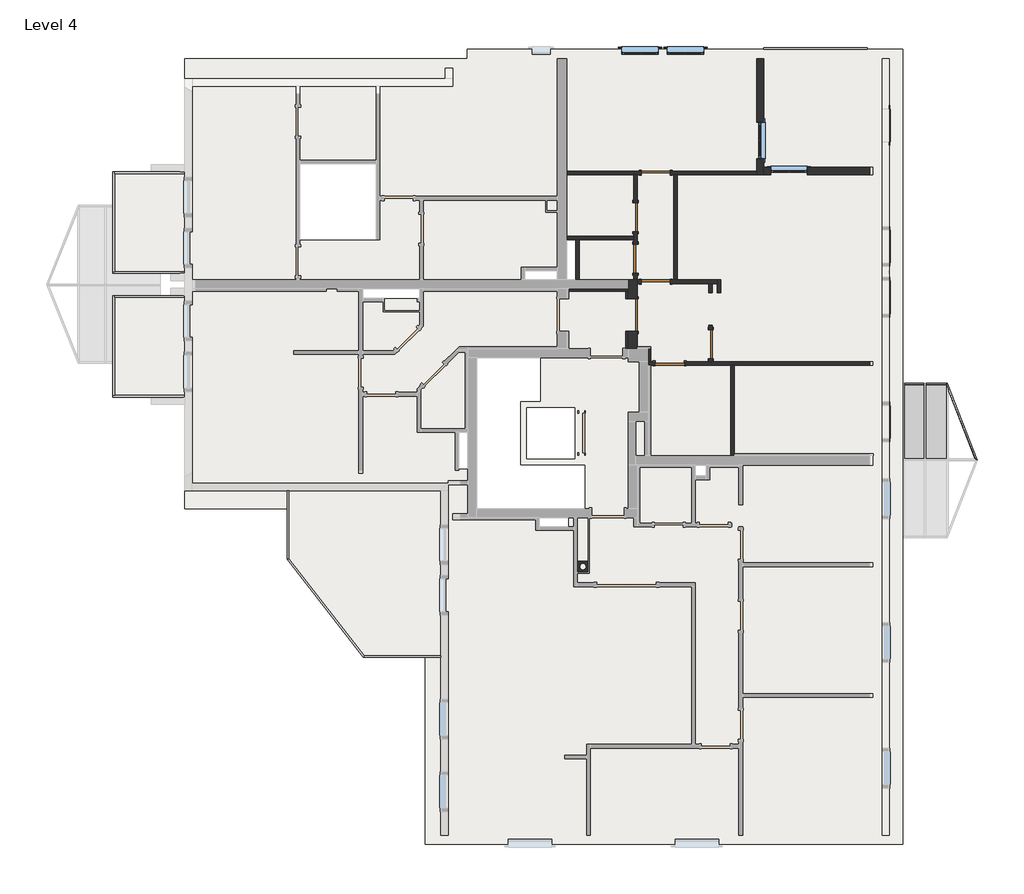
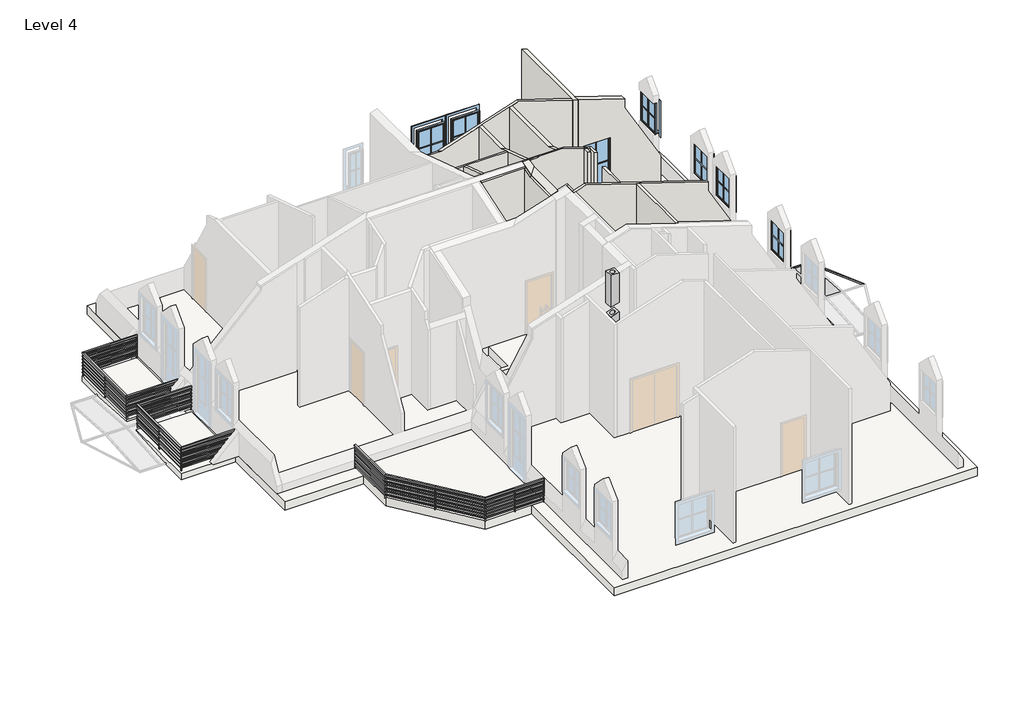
# One storey, part 4 of 4: 17 walls, 8 windows, 7 doors, 4 railings, 4 slabs, 3 members, 2 plates, 1 column.
"""IFC4 building model written with IfcOpenShell, lengths in millimetres."""

from ifc_helpers import new_model, si_unit, frame, origin, place, context, project, spatial, polyline, circle_curve, ellipse_curve, outline, extrude, faceted_brep, transform, mapped, element, save
from ifc_brep_helpers import plane_surface, revolved_surface, advanced_brep
from components import standard_door_sd_800x2000_6a16926d, standard_door_sd_800x2000_80f4ff25, standard_door_sd_900x2000_4224ae2a, rectangular_mullion_40_40_b48b72c3, rectangular_mullion_40_40_5bffcd9d, rectangular_mullion_40_40_41786b79, system_panel_system_panel_b659144f, system_panel_system_panel_996e8192, railing_900mm_pipe_289d2cf6, railing_900mm_pipe_1f24636d, railing_900mm_pipe_5438d2cb, railing_900mm_pipe_97c98137, standard_window_with_mullions_12e20a72, standard_window_with_mullions_4f38f980, window_2_5e4ade40, window_2_40adfcd9

model = new_model("IFC4")

# Units and contexts
model_context = context("Model", 3, world=origin())
ifc_project = project(units=[si_unit("LENGTHUNIT", "METRE", prefix="MILLI")], contexts=[model_context])

# Site, building, storey
site = spatial("IfcSite", under=ifc_project)
building = spatial("IfcBuilding", under=site)
storey = spatial("IfcBuildingStorey", under=building, Name="Level 4", Elevation=11800.0)

# Column
placement = place(None, origin())
element("IfcColumn", 1, ObjectType="AT Kamin : 300/300/160", at=placement, inside=storey, context=model_context, shape_type="AdvancedBrep", body=[
    advanced_brep(
    [(463.5618728, -3282.3709459, 17750.0), (163.5618728, -3282.3709459, 17750.0), (163.5618728, -3582.3709459, 17750.0), (463.5618728, -3582.3709459, 17750.0), (233.5618728, -3432.3709459, 17750.0), (393.5618728, -3432.3709459, 17750.0), (463.5618728, -3282.3709459, 16623.4506996), (163.5618728, -3282.3709459, 16525.9747908), (163.5618728, -3582.3709459, 16525.9747908), (463.5618728, -3582.3709459, 16623.4506996), (233.5618728, -3432.3709459, 16548.7191695), (393.5618728, -3432.3709459, 16600.7063209)],
    [
        (0, 1),
        (1, 2),
        (2, 3),
        (3, 0),
        (4, 5, circle_curve(frame((313.5618728, -3432.3709459, 17750.0), z_axis=(0.0, 0.0, -1.0), x_axis=(1.0, 0.0, 0.0)), 80.0)),
        (5, 4, circle_curve(frame((313.5618728, -3432.3709459, 17750.0), z_axis=(0.0, 0.0, -1.0), x_axis=(1.0, 0.0, 0.0)), 80.0)),
        (0, 6),
        (6, 7),
        (7, 1),
        (7, 8),
        (8, 2),
        (8, 9),
        (9, 3),
        (9, 6),
        (4, 10),
        (10, 11, ellipse_curve(frame((313.5618728, -3432.3709459, 16574.7127452), z_axis=(0.30901699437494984, 0.0, -0.9510565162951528), x_axis=(-0.9510565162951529, 0.0, -0.30901699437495)), 84.1169779, 80.0)),
        (11, 5),
        (11, 10, ellipse_curve(frame((313.5618728, -3432.3709459, 16574.7127452), z_axis=(0.30901699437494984, 0.0, -0.9510565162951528), x_axis=(-0.9510565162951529, 0.0, -0.30901699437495)), 84.1169779, 80.0)),
    ],
    [
        plane_surface(frame((163.5618728, -3282.3709459, 17750.0), z_axis=(0.0, 0.0, 1.0), x_axis=(-1.0, 0.0, 0.0))),
        plane_surface(frame((463.5618728, -3282.3709459, 17750.0), z_axis=(0.0, 1.0, 0.0), x_axis=(0.0, 0.0, -1.0))),
        plane_surface(frame((163.5618728, -3282.3709459, 17750.0), z_axis=(-1.0, 0.0, 0.0), x_axis=(0.0, 0.0, -1.0))),
        plane_surface(frame((163.5618728, -3582.3709459, 17750.0), z_axis=(0.0, -1.0, 0.0), x_axis=(0.0, 0.0, -1.0))),
        plane_surface(frame((463.5618728, -3582.3709459, 17750.0), z_axis=(1.0, 0.0, 0.0), x_axis=(0.0, 0.0, -1.0))),
        revolved_surface(polyline([(393.5618728, -3432.3709459, 16548.7191695), (393.5618728, -3432.3709459, 17750.0)]), (313.5618728, -3432.3709459, 11800.0), (0.0, 0.0, -1.0)),
        plane_surface(frame((-1841.5846805, 437.0391776, 15874.4631818), z_axis=(0.30901699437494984, 0.0, -0.9510565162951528), x_axis=(0.0, -1.0, 0.0))),
    ],
    [
        (0, [[1, 2, 3, 4], [5, 6]]),
        (1, [[-1, 7, 8, 9]]),
        (2, [[-2, -9, 10, 11]]),
        (3, [[-3, -11, 12, 13]]),
        (4, [[-4, -13, 14, -7]]),
        (5, [[-5, 15, 16, 17]]),
        (5, [[-6, -17, 18, -15]]),
        (6, [[-8, -14, -12, -10], [-16, -18]]),
    ],
),
    advanced_brep(
    [(463.5618728, -3282.3709459, 11800.0), (463.5618728, -3582.3709459, 11800.0), (163.5618728, -3582.3709459, 11800.0), (163.5618728, -3282.3709459, 11800.0), (233.5618728, -3432.3709459, 11800.0), (393.5618728, -3432.3709459, 11800.0), (463.5618728, -3282.3709459, 16244.9242989), (163.5618728, -3282.3709459, 16147.44839), (163.5618728, -3582.3709459, 16147.44839), (463.5618728, -3582.3709459, 16244.9242989), (233.5618728, -3432.3709459, 16170.1927688), (393.5618728, -3432.3709459, 16222.1799202)],
    [
        (0, 1),
        (1, 2),
        (2, 3),
        (3, 0),
        (4, 5, circle_curve(frame((313.5618728, -3432.3709459, 11800.0), z_axis=(0.0, 0.0, 1.0), x_axis=(1.0, 0.0, 0.0)), 80.0)),
        (5, 4, circle_curve(frame((313.5618728, -3432.3709459, 11800.0), z_axis=(0.0, 0.0, 1.0), x_axis=(1.0, 0.0, 0.0)), 80.0)),
        (6, 7),
        (7, 8),
        (8, 9),
        (9, 6),
        (10, 11, ellipse_curve(frame((313.5618728, -3432.3709459, 16196.1863445), z_axis=(0.30901699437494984, 0.0, -0.9510565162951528), x_axis=(-0.9510565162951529, 0.0, -0.30901699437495)), 84.1169779, 80.0)),
        (11, 10, ellipse_curve(frame((313.5618728, -3432.3709459, 16196.1863445), z_axis=(0.30901699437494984, 0.0, -0.9510565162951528), x_axis=(-0.9510565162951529, 0.0, -0.30901699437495)), 84.1169779, 80.0)),
        (3, 7),
        (6, 0),
        (2, 8),
        (1, 9),
        (5, 11),
        (10, 4),
    ],
    [
        plane_surface(frame((163.5618728, -3282.3709459, 11800.0), z_axis=(0.0, 0.0, -1.0), x_axis=(1.0, 0.0, 0.0))),
        plane_surface(frame((-1841.5846805, 437.0391776, 15495.936781), z_axis=(-0.30901699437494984, 0.0, 0.9510565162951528), x_axis=(0.0, -1.0, 0.0))),
        plane_surface(frame((463.5618728, -3282.3709459, 17750.0), z_axis=(0.0, 1.0, 0.0), x_axis=(0.0, 0.0, -1.0))),
        plane_surface(frame((163.5618728, -3282.3709459, 17750.0), z_axis=(-1.0, 0.0, 0.0), x_axis=(0.0, 0.0, -1.0))),
        plane_surface(frame((163.5618728, -3582.3709459, 17750.0), z_axis=(0.0, -1.0, 0.0), x_axis=(0.0, 0.0, -1.0))),
        plane_surface(frame((463.5618728, -3582.3709459, 17750.0), z_axis=(1.0, 0.0, 0.0), x_axis=(0.0, 0.0, -1.0))),
        revolved_surface(polyline([(393.5618728, -3432.3709459, 11800.0), (393.5618728, -3432.3709459, 16222.1799202)]), (313.5618728, -3432.3709459, 11800.0), (0.0, 0.0, -1.0)),
    ],
    [
        (0, [[1, 2, 3, 4], [5, 6]]),
        (1, [[7, 8, 9, 10], [11, 12]]),
        (2, [[-4, 13, -7, 14]]),
        (3, [[-3, 15, -8, -13]]),
        (4, [[-2, 16, -9, -15]]),
        (5, [[-1, -14, -10, -16]]),
        (6, [[-6, 17, -11, 18]]),
        (6, [[-5, -18, -12, -17]]),
    ],
),
])

# Doors
standard_door_sd_800x2000_shape = standard_door_sd_800x2000_6a16926d(model_context)
element("IfcDoor", 2, ObjectType="Standard Door : SD 800x2000", at=placement, inside=storey, context=model_context, shape_type="MappedRepresentation", body=[
    mapped(standard_door_sd_800x2000_shape, transform((1762.8037835, 6195.7160827, 11800.0), x_axis=(0.0, 1.0, 0.0), y_axis=(-1.0, 0.0, 0.0), z_axis=(0.0, 0.0, 1.0))),
])
element("IfcDoor", 3, ObjectType="Standard Door : SD 800x2000", at=placement, inside=storey, context=model_context, shape_type="MappedRepresentation", body=[
    mapped(standard_door_sd_800x2000_shape, transform((3832.8037835, 2700.9736217, 11800.0), x_axis=(0.0, 1.0, 0.0), y_axis=(-1.0, 0.0, 0.0), z_axis=(0.0, 0.0, 1.0))),
])
element("IfcDoor", 4, ObjectType="Standard Door : SD 800x2000", at=placement, inside=storey, context=model_context, shape_type="MappedRepresentation", body=[
    mapped(standard_door_sd_800x2000_shape, transform((2702.9629379, 2166.2076978, 11800.0), x_axis=(1.0, 0.0, 0.0), y_axis=(0.0, 1.0, 0.0), z_axis=(0.0, 0.0, 1.0))),
])
standard_door_sd_800x2000_2_shape = standard_door_sd_800x2000_80f4ff25(model_context)
element("IfcDoor", 5, ObjectType="Standard Door : SD 800x2000", at=placement, inside=storey, context=model_context, shape_type="MappedRepresentation", body=[
    mapped(standard_door_sd_800x2000_2_shape, transform((2320.391243, 7417.6290541, 11800.0), x_axis=(1.0, 0.0, 0.0), y_axis=(0.0, 1.0, 0.0), z_axis=(0.0, 0.0, 1.0))),
])
element("IfcDoor", 6, ObjectType="Standard Door : SD 800x2000", at=placement, inside=storey, context=model_context, shape_type="MappedRepresentation", body=[
    mapped(standard_door_sd_800x2000_2_shape, transform((2320.391243, 4417.6290541, 11800.0), x_axis=(1.0, 0.0, 0.0), y_axis=(0.0, 1.0, 0.0), z_axis=(0.0, 0.0, 1.0))),
])
element("IfcDoor", 7, ObjectType="Standard Door : SD 800x2000", at=placement, inside=storey, context=model_context, shape_type="MappedRepresentation", body=[
    mapped(standard_door_sd_800x2000_2_shape, transform((1762.8037835, 5053.6933044, 11800.0), x_axis=(0.0, 1.0, 0.0), y_axis=(-1.0, 0.0, 0.0), z_axis=(0.0, 0.0, 1.0))),
])
standard_door_sd_900x2000_shape = standard_door_sd_900x2000_4224ae2a(model_context)
element("IfcDoor", 8, ObjectType="Standard Door : SD 900x2000", at=placement, inside=storey, context=model_context, shape_type="MappedRepresentation", body=[
    mapped(standard_door_sd_900x2000_shape, transform((1687.8037835, 3497.5977832, 11800.0), x_axis=(0.0, -0.9999999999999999, 0.0), y_axis=(0.9999999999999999, 0.0, 0.0), z_axis=(0.0, 0.0, 1.0))),
])

# Members
rectangular_mullion_40_40_shape = rectangular_mullion_40_40_b48b72c3(model_context)
element("IfcMember", 9, ObjectType="Rectangular Mullion : 40/40", at=placement, inside=storey, context=model_context, shape_type="MappedRepresentation", body=[
    mapped(rectangular_mullion_40_40_shape, transform((9172.8037835, 1617.6290541, 11530.0), x_axis=(0.0, 0.9975640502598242, -0.06975647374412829), y_axis=(0.0, -0.06975647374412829, -0.9975640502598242), z_axis=(-1.0, 0.0, 0.0))),
])
rectangular_mullion_40_40_2_shape = rectangular_mullion_40_40_5bffcd9d(model_context)
element("IfcMember", 10, ObjectType="Rectangular Mullion : 40/40", at=placement, inside=storey, context=model_context, shape_type="MappedRepresentation", body=[
    mapped(rectangular_mullion_40_40_2_shape, transform((10358.0299794, 1617.6290541, 11530.0), x_axis=(0.9322837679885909, 0.36084661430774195, -0.025232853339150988), y_axis=(0.0, -0.06975647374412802, -0.9975640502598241), z_axis=(-0.3617277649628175, 0.9300127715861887, -0.06503282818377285))),
])
rectangular_mullion_40_40_3_shape = rectangular_mullion_40_40_41786b79(model_context)
element("IfcMember", 11, ObjectType="Rectangular Mullion : 40/40", at=placement, inside=storey, context=model_context, shape_type="MappedRepresentation", body=[
    mapped(rectangular_mullion_40_40_3_shape, transform((9765.4168815, 1617.6290541, 11530.0), x_axis=(0.0, 0.9975640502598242, -0.06975647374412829), y_axis=(0.0, -0.06975647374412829, -0.9975640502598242), z_axis=(-1.0, 0.0, 0.0))),
])

# Plates
system_panel_system_panel_shape = system_panel_system_panel_b659144f(model_context)
element("IfcPlate", 12, ObjectType="System Panel : System Panel", at=placement, inside=storey, context=model_context, shape_type="MappedRepresentation", body=[
    mapped(system_panel_system_panel_shape, transform((10051.7234305, 1577.7264921, 11532.7902589), x_axis=(-1.0, 0.0, 0.0), y_axis=(0.0, -0.06975647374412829, -0.9975640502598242), z_axis=(0.0, -0.9975640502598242, 0.06975647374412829))),
])
system_panel_system_panel_2_shape = system_panel_system_panel_996e8192(model_context)
element("IfcPlate", 13, ObjectType="System Panel : System Panel", at=placement, inside=storey, context=model_context, shape_type="MappedRepresentation", body=[
    mapped(system_panel_system_panel_2_shape, transform((9449.1103325, 1577.7264921, 11532.7902589), x_axis=(-1.0, 0.0, 0.0), y_axis=(0.0, -0.06975647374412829, -0.9975640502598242), z_axis=(0.0, -0.9975640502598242, 0.06975647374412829))),
])

# Railings
railing_900mm_pipe_shape = railing_900mm_pipe_289d2cf6(model_context)
element("IfcRailing", 14, ObjectType="900mm Pipe", at=placement, inside=storey, context=model_context, shape_type="MappedRepresentation", body=[
    mapped(railing_900mm_pipe_shape, transform((0.0, 0.0, 0.0), x_axis=(1.0, 0.0, 0.0), y_axis=(0.0, 1.0, 0.0), z_axis=(0.0, 0.0, 1.0))),
])
railing_900mm_pipe_2_shape = railing_900mm_pipe_1f24636d(model_context)
element("IfcRailing", 15, ObjectType="900mm Pipe", at=placement, inside=storey, context=model_context, shape_type="MappedRepresentation", body=[
    mapped(railing_900mm_pipe_2_shape, transform((0.0, 0.0, 0.0), x_axis=(1.0, 0.0, 0.0), y_axis=(0.0, 1.0, 0.0), z_axis=(0.0, 0.0, 1.0))),
])
railing_900mm_pipe_3_shape = railing_900mm_pipe_5438d2cb(model_context)
element("IfcRailing", 16, ObjectType="900mm Pipe", at=placement, inside=storey, context=model_context, shape_type="MappedRepresentation", body=[
    mapped(railing_900mm_pipe_3_shape, transform((0.0, 0.0, 0.0), x_axis=(1.0, 0.0, 0.0), y_axis=(0.0, 1.0, 0.0), z_axis=(0.0, 0.0, 1.0))),
])
railing_900mm_pipe_4_shape = railing_900mm_pipe_97c98137(model_context)
element("IfcRailing", 17, ObjectType="900mm Pipe", at=placement, inside=storey, context=model_context, shape_type="MappedRepresentation", body=[
    mapped(railing_900mm_pipe_4_shape, transform((0.0, 0.0, 0.0), x_axis=(1.0, 0.0, 0.0), y_axis=(0.0, 1.0, 0.0), z_axis=(0.0, 0.0, 1.0))),
])

# Slabs
element("IfcSlab", 18, ObjectType="Concrete", at=placement, inside=storey, context=model_context, shape_type="SweptSolid", body=[
    extrude(outline(polyline([(-10656.4352243, 4647.6290541), (-12637.1962165, 4647.6290541), (-12637.1962165, 7447.6290541), (-10656.4352243, 7447.6290541), (-10656.4352243, 4647.6290541)])), frame((0.0, 0.0, 11480.0), z_axis=(0.0, 0.0, 1.0), x_axis=(1.0, 0.0, 0.0)), (0.0, 0.0, 1.0), 220.0),
])
element("IfcSlab", 19, ObjectType="Concrete", at=placement, inside=storey, context=model_context, shape_type="SweptSolid", body=[
    extrude(outline(polyline([(-10656.4352243, 1237.6290541), (-12637.1962165, 1237.6290541), (-12637.1962165, 4037.6290541), (-10656.4352243, 4037.6290541), (-10656.4352243, 1237.6290541)])), frame((0.0, 0.0, 11480.0), z_axis=(0.0, 0.0, 1.0), x_axis=(1.0, 0.0, 0.0)), (0.0, 0.0, 1.0), 220.0),
])
element("IfcSlab", 20, ObjectType="STB200 + 120", at=placement, inside=storey, context=model_context, shape_type="Brep", body=[
    faceted_brep([(-7787.1962165, -1832.3709459, 11480.0), (-10656.4352243, -1832.3709459, 11480.0), (-10656.4352243, 10567.6290541, 11480.0), (-2867.1962165, 10567.6290541, 11480.0), (-2867.1962165, 10817.6290541, 11480.0), (9132.8037835, 10817.6290541, 11480.0), (9132.8037835, -11082.3709459, 11480.0), (-4037.1962165, -11082.3709459, 11480.0), (-4037.1962165, -5882.3709459, 11480.0), (-3598.9496412, -5882.3709459, 11480.0), (-3598.9496412, -1338.1208451, 11480.0), (-7787.1962165, -1338.1208451, 11480.0), (-857.1962165, 1117.6290541, 11480.0), (-857.1962165, 2317.6290541, 11480.0), (-2607.1962165, 2317.6290541, 11480.0), (-2607.1962165, -1832.3709459, 11480.0), (362.8037835, -1832.3709459, 11480.0), (362.8037835, -632.3709459, 11480.0), (-1407.1962165, -632.3709459, 11480.0), (-1407.1962165, 1117.6290541, 11480.0), (-7487.1962165, 5567.6290541, 11480.0), (-5387.1962165, 5567.6290541, 11480.0), (-5387.1962165, 7667.6290541, 11480.0), (-7487.1962165, 7667.6290541, 11480.0), (-387.1962165, 4717.6290541, 11480.0), (-1287.1962165, 4717.6290541, 11480.0), (-1287.1962165, 4467.6290541, 11480.0), (-387.1962165, 4467.6290541, 11480.0), (112.8037835, 5567.6290541, 11480.0), (-137.1962165, 5567.6290541, 11480.0), (-137.1962165, 4467.6290541, 11480.0), (112.8037835, 4467.6290541, 11480.0), (-5757.1962165, 3967.6290541, 11480.0), (-4187.1962165, 3967.6290541, 11480.0), (-4187.1962165, 4217.6290541, 11480.0), (-5757.1962165, 4217.6290541, 11480.0), (-2857.1962165, 267.6290541, 11480.0), (-3107.1962165, 267.6290541, 11480.0), (-3107.1962165, -732.3709459, 11480.0), (-2857.1962165, -732.3709459, 11480.0), (-86.4381272, -2082.3709459, 11480.0), (-886.4381272, -2082.3709459, 11480.0), (-886.4381272, -2332.3709459, 11480.0), (-86.4381272, -2332.3709459, 11480.0), (3712.8037835, -632.3709459, 11480.0), (3412.8037835, -632.3709459, 11480.0), (3412.8037835, -932.3709459, 11480.0), (3712.8037835, -932.3709459, 11480.0), (87.8037835, 947.6290541, 11480.0), (-1237.1962165, 947.6290541, 11480.0), (-1237.1962165, -462.3709459, 11480.0), (87.8037835, -462.3709459, 11480.0), (-10656.4352243, -1832.3709459, 11800.0), (-7787.1962165, -1832.3709459, 11800.0), (-7787.1962165, -1338.1208451, 11800.0), (-3598.9496412, -1338.1208451, 11800.0), (-3598.9496412, -3772.3709459, 11800.0), (-3598.9496412, -4672.3709459, 11800.0), (-3598.9496412, -5882.3709459, 11800.0), (-4037.1962165, -5882.3709459, 11800.0), (-4037.1962165, -11082.3709459, 11800.0), (9132.8037835, -11082.3709459, 11800.0), (9132.8037835, 10817.6290541, 11800.0), (-2867.1962165, 10817.6290541, 11800.0), (-2867.1962165, 10567.6290541, 11800.0), (-10656.4352243, 10567.6290541, 11800.0), (-857.1962165, 2317.6290541, 11800.0), (-857.1962165, 1117.6290541, 11800.0), (-1407.1962165, 1117.6290541, 11800.0), (-1407.1962165, -632.3709459, 11800.0), (362.8037835, -632.3709459, 11800.0), (362.8037835, -1832.3709459, 11800.0), (-2607.1962165, -1832.3709459, 11800.0), (-2607.1962165, 2317.6290541, 11800.0), (-5387.1962165, 5567.6290541, 11800.0), (-7487.1962165, 5567.6290541, 11800.0), (-7487.1962165, 7667.6290541, 11800.0), (-5387.1962165, 7667.6290541, 11800.0), (-1287.1962165, 4717.6290541, 11800.0), (-387.1962165, 4717.6290541, 11800.0), (-387.1962165, 4467.6290541, 11800.0), (-1287.1962165, 4467.6290541, 11800.0), (-137.1962165, 5567.6290541, 11800.0), (112.8037835, 5567.6290541, 11800.0), (112.8037835, 4467.6290541, 11800.0), (-137.1962165, 4467.6290541, 11800.0), (-4187.1962165, 3967.6290541, 11800.0), (-5757.1962165, 3967.6290541, 11800.0), (-5757.1962165, 4217.6290541, 11800.0), (-4187.1962165, 4217.6290541, 11800.0), (-3107.1962165, 267.6290541, 11800.0), (-2857.1962165, 267.6290541, 11800.0), (-2857.1962165, -732.3709459, 11800.0), (-3107.1962165, -732.3709459, 11800.0), (-886.4381272, -2082.3709459, 11800.0), (-86.4381272, -2082.3709459, 11800.0), (-86.4381272, -2332.3709459, 11800.0), (-886.4381272, -2332.3709459, 11800.0), (3412.8037835, -632.3709459, 11800.0), (3712.8037835, -632.3709459, 11800.0), (3712.8037835, -932.3709459, 11800.0), (3412.8037835, -932.3709459, 11800.0), (-1237.1962165, 947.6290541, 11800.0), (87.8037835, 947.6290541, 11800.0), (87.8037835, -462.3709459, 11800.0), (-1237.1962165, -462.3709459, 11800.0)], [[[0, 1, 2, 3, 4, 5, 6, 7, 8, 9, 10, 11], [12, 13, 14, 15, 16, 17, 18, 19], [20, 21, 22, 23], [24, 25, 26, 27], [28, 29, 30, 31], [32, 33, 34, 35], [36, 37, 38, 39], [40, 41, 42, 43], [44, 45, 46, 47], [48, 49, 50, 51]], [[52, 53, 54, 55, 56, 57, 58, 59, 60, 61, 62, 63, 64, 65], [66, 67, 68, 69, 70, 71, 72, 73], [74, 75, 76, 77], [78, 79, 80, 81], [82, 83, 84, 85], [86, 87, 88, 89], [90, 91, 92, 93], [94, 95, 96, 97], [98, 99, 100, 101], [102, 103, 104, 105]], [[1, 0, 53, 52]], [[2, 1, 52, 65]], [[5, 4, 63, 62]], [[6, 5, 62, 61]], [[7, 6, 61, 60]], [[8, 7, 60, 59]], [[9, 8, 59, 58]], [[10, 9, 58, 57, 56, 55]], [[11, 10, 55, 54]], [[0, 11, 54, 53]], [[3, 2, 65, 64]], [[4, 3, 64, 63]], [[13, 12, 67, 66]], [[14, 13, 66, 73]], [[15, 14, 73, 72]], [[16, 15, 72, 71]], [[17, 16, 71, 70]], [[21, 20, 75, 74]], [[22, 21, 74, 77]], [[23, 22, 77, 76]], [[20, 23, 76, 75]], [[25, 24, 79, 78]], [[26, 25, 78, 81]], [[27, 26, 81, 80]], [[24, 27, 80, 79]], [[29, 28, 83, 82]], [[30, 29, 82, 85]], [[31, 30, 85, 84]], [[28, 31, 84, 83]], [[33, 32, 87, 86]], [[34, 33, 86, 89]], [[35, 34, 89, 88]], [[32, 35, 88, 87]], [[37, 36, 91, 90]], [[38, 37, 90, 93]], [[39, 38, 93, 92]], [[36, 39, 92, 91]], [[41, 40, 95, 94]], [[42, 41, 94, 97]], [[43, 42, 97, 96]], [[40, 43, 96, 95]], [[45, 44, 99, 98]], [[46, 45, 98, 101]], [[47, 46, 101, 100]], [[44, 47, 100, 99]], [[18, 17, 70, 69]], [[19, 18, 69, 68]], [[12, 19, 68, 67]], [[49, 48, 103, 102]], [[50, 49, 102, 105]], [[51, 50, 105, 104]], [[48, 51, 104, 103]]]),
])
element("IfcSlab", 21, ObjectType="STB200 + 120 Roof", at=placement, inside=storey, context=model_context, shape_type="Brep", body=[
    faceted_brep([(-7787.1962165, -1338.1208451, 11480.0), (-3598.9496412, -1338.1208451, 11480.0), (-3598.9496412, -5882.3709459, 11480.0), (-4037.1962165, -5882.3709459, 11480.0), (-5712.7420262, -5882.3709459, 11480.0), (-7787.1962165, -3215.2155584, 11480.0), (-7787.1962165, -1832.3709459, 11480.0), (-7787.1962165, -1338.1208451, 11800.0), (-7787.1962165, -1832.3709459, 11800.0), (-7787.1962165, -3215.2155584, 11800.0), (-5712.7420262, -5882.3709459, 11800.0), (-4037.1962165, -5882.3709459, 11800.0), (-3598.9496412, -5882.3709459, 11800.0), (-3598.9496412, -1338.1208451, 11800.0)], [[[0, 1, 2, 3, 4, 5, 6]], [[7, 8, 9, 10, 11, 12, 13]], [[1, 0, 7, 13]], [[2, 1, 13, 12]], [[4, 3, 2, 12, 11, 10]], [[5, 4, 10, 9]], [[0, 6, 5, 9, 8, 7]]]),
])

# Walls
element("IfcWall", 22, ObjectType="Exterior - 150+50mm", at=placement, inside=storey, context=model_context, shape_type="Brep", body=[
    faceted_brep([(5102.8037835, 7367.6290541, 11800.0), (5102.8037835, 7467.6290541, 11800.0), (5102.8037835, 7808.747067, 11800.0), (5302.8037835, 7808.747067, 11800.0), (5302.8037835, 7567.6290541, 11800.0), (5302.8037835, 7367.6290541, 11800.0), (5102.8037835, 8808.747067, 11800.0), (5102.8037835, 10567.6290541, 11800.0), (5302.8037835, 10567.6290541, 11800.0), (5302.8037835, 8808.747067, 11800.0), (5102.8037835, 7808.747067, 14200.0), (5102.8037835, 7367.6290541, 16107.6879523), (5102.8037835, 7467.6290541, 16107.6879523), (5102.8037835, 10567.6290541, 16107.6879523), (5102.8037835, 8808.747067, 14200.0), (5302.8037835, 7808.747067, 14200.0), (5302.8037835, 8808.747067, 14200.0), (5302.8037835, 10567.6290541, 14600.0), (5302.8037835, 10567.6290541, 16042.7040131), (5302.8037835, 7567.6290541, 16042.7040131), (5302.8037835, 7367.6290541, 16042.7040131)], [[[0, 1, 2, 3, 4, 5]], [[6, 7, 8, 9]], [[10, 2, 1, 0, 11, 12, 13, 7, 6, 14]], [[5, 4, 3, 15, 16, 9, 8, 17, 18, 19, 20]], [[11, 0, 5, 20]], [[7, 13, 18, 17, 8]], [[13, 12, 11, 20, 19, 18]], [[15, 3, 2, 10]], [[16, 15, 10, 14]], [[9, 16, 14, 6]]]),
])
element("IfcWall", 23, ObjectType="Exterior - 150+50mm", at=placement, inside=storey, context=model_context, shape_type="SweptSolid", body=[
    extrude(outline(polyline([(11800.0, 5302.8037835), (11800.0, 5491.3587324), (14200.0, 5491.3587324), (14200.0, 6491.3587324), (11800.0, 6491.3587324), (11800.0, 8302.8037835), (12878.7941791, 8302.8037835), (15160.2921908, 6985.5802922), (15495.936781, 6985.5802922), (16042.7040131, 5302.8037835), (11800.0, 5302.8037835)])), frame((0.0, 7367.6290541, 0.0), z_axis=(0.0, 1.0, 0.0), x_axis=(0.0, 0.0, 1.0)), (0.0, 0.0, 1.0), 200.0),
])
element("IfcWall", 24, ObjectType="Interior - 100mm", at=placement, inside=storey, context=model_context, shape_type="Brep", body=[
    faceted_brep([(5102.8037835, 7367.6290541, 11800.0), (2912.8037835, 7367.6290541, 11800.0), (2812.8037835, 7367.6290541, 11800.0), (2720.391243, 7367.6290541, 11800.0), (2720.391243, 7467.6290541, 11800.0), (5102.8037835, 7467.6290541, 11800.0), (1920.391243, 7367.6290541, 11800.0), (1812.8037835, 7367.6290541, 11800.0), (1712.8037835, 7367.6290541, 11800.0), (-137.1962165, 7367.6290541, 11800.0), (-137.1962165, 7467.6290541, 11800.0), (1920.391243, 7467.6290541, 11800.0), (2720.391243, 7367.6290541, 13800.0), (5102.8037835, 7367.6290541, 16107.6879523), (3156.9978058, 7367.6290541, 16739.9186395), (2912.8037835, 7367.6290541, 16660.5751919), (2812.8037835, 7367.6290541, 16628.0832223), (1812.8037835, 7367.6290541, 16303.1635261), (1712.8037835, 7367.6290541, 16270.6715565), (332.8037835, 7367.6290541, 15822.2823757), (-137.1962165, 7367.6290541, 15822.2823757), (1920.391243, 7367.6290541, 13800.0), (2720.391243, 7467.6290541, 13800.0), (1920.391243, 7467.6290541, 13800.0), (-137.1962165, 7467.6290541, 15789.790406), (232.8037835, 7467.6290541, 15789.790406), (3156.9978058, 7467.6290541, 16739.9186395), (5102.8037835, 7467.6290541, 16107.6879523)], [[[0, 1, 2, 3, 4, 5]], [[6, 7, 8, 9, 10, 11]], [[12, 3, 2, 1, 0, 13, 14, 15, 16, 17, 18, 19, 20, 9, 8, 7, 6, 21]], [[5, 4, 22, 23, 11, 10, 24, 25, 26, 27]], [[9, 20, 24, 10]], [[13, 0, 5, 27]], [[20, 19, 25, 24]], [[19, 18, 17, 16, 15, 14, 26, 25]], [[14, 13, 27, 26]], [[22, 4, 3, 12]], [[23, 22, 12, 21]], [[11, 23, 21, 6]]]),
])
element("IfcWall", 25, ObjectType="Interior - 100mm", at=placement, inside=storey, context=model_context, shape_type="Brep", body=[
    faceted_brep([(1812.8037835, 7367.6290541, 11800.0), (1812.8037835, 6595.7160827, 11800.0), (1712.8037835, 6595.7160827, 11800.0), (1712.8037835, 7367.6290541, 11800.0), (1812.8037835, 5795.7160827, 11800.0), (1812.8037835, 5453.6933044, 11800.0), (1712.8037835, 5453.6933044, 11800.0), (1712.8037835, 5567.6290541, 11800.0), (1712.8037835, 5667.6290541, 11800.0), (1712.8037835, 5795.7160827, 11800.0), (1812.8037835, 4653.6933044, 11800.0), (1812.8037835, 4467.6290541, 11800.0), (1712.8037835, 4467.6290541, 11800.0), (1712.8037835, 4653.6933044, 11800.0), (1812.8037835, 5453.6933044, 13800.0), (1812.8037835, 5795.7160827, 13800.0), (1812.8037835, 6595.7160827, 13800.0), (1812.8037835, 7367.6290541, 16303.1635261), (1812.8037835, 5887.6290541, 16303.1635261), (1812.8037835, 4467.6290541, 16764.5494947), (1812.8037835, 4653.6933044, 13800.0), (1712.8037835, 5453.6933044, 13800.0), (1712.8037835, 4653.6933044, 13800.0), (1712.8037835, 4467.6290541, 16764.5494947), (1712.8037835, 5567.6290541, 16407.1378289), (1712.8037835, 5667.6290541, 16374.6458593), (1712.8037835, 5987.6290541, 16270.6715565), (1712.8037835, 7367.6290541, 16270.6715565), (1712.8037835, 6595.7160827, 13800.0), (1712.8037835, 5795.7160827, 13800.0)], [[[0, 1, 2, 3]], [[4, 5, 6, 7, 8, 9]], [[10, 11, 12, 13]], [[14, 5, 4, 15, 16, 1, 0, 17, 18, 19, 11, 10, 20]], [[9, 8, 7, 6, 21, 22, 13, 12, 23, 24, 25, 26, 27, 3, 2, 28, 29]], [[17, 0, 3, 27]], [[11, 19, 23, 12]], [[19, 18, 26, 25, 24, 23]], [[18, 17, 27, 26]], [[28, 2, 1, 16]], [[29, 28, 16, 15]], [[9, 29, 15, 4]], [[21, 6, 5, 14]], [[22, 21, 14, 20]], [[13, 22, 20, 10]]]),
])
element("IfcWall", 26, ObjectType="Interior - 100mm", at=placement, inside=storey, context=model_context, shape_type="Brep", body=[
    faceted_brep([(1712.8037835, 5667.6290541, 11800.0), (-137.1962165, 5667.6290541, 11800.0), (-137.1962165, 5667.6290541, 16374.6458593), (1712.8037835, 5667.6290541, 16374.6458593), (1712.8037835, 5567.6290541, 11800.0), (1712.8037835, 5567.6290541, 16407.1378289), (212.8037835, 5567.6290541, 16407.1378289), (112.8037835, 5567.6290541, 16407.1378289), (-137.1962165, 5567.6290541, 16407.1378289), (-137.1962165, 5567.6290541, 11800.0), (112.8037835, 5567.6290541, 11800.0), (212.8037835, 5567.6290541, 11800.0)], [[[0, 1, 2, 3]], [[4, 5, 6, 7, 8, 9, 10, 11]], [[1, 0, 4, 11, 10, 9]], [[0, 3, 5, 4]], [[2, 1, 9, 8]], [[3, 2, 8, 7, 6, 5]]]),
])
element("IfcWall", 27, ObjectType="Interior - 100mm", at=placement, inside=storey, context=model_context, shape_type="SweptSolid", body=[
    extrude(outline(polyline([(5567.6290541, 11800.0), (4467.6290541, 11800.0), (4467.6290541, 16764.5494947), (5567.6290541, 16407.1378289), (5567.6290541, 11800.0)])), frame((112.8037835, 0.0, 0.0), z_axis=(1.0, 0.0, 0.0), x_axis=(0.0, 1.0, 0.0)), (0.0, 0.0, 1.0), 100.0),
])
element("IfcWall", 28, ObjectType="Interior - 100mm", at=placement, inside=storey, context=model_context, shape_type="Brep", body=[
    faceted_brep([(4012.8037835, 4367.6290541, 11800.0), (3882.8037835, 4367.6290541, 11800.0), (3782.8037835, 4367.6290541, 11800.0), (2720.391243, 4367.6290541, 11800.0), (2720.391243, 4467.6290541, 11800.0), (2812.8037835, 4467.6290541, 11800.0), (2912.8037835, 4467.6290541, 11800.0), (4012.8037835, 4467.6290541, 11800.0), (1920.391243, 4367.6290541, 11800.0), (1812.8037835, 4367.6290541, 11800.0), (1812.8037835, 4467.6290541, 11800.0), (1920.391243, 4467.6290541, 11800.0), (2720.391243, 4367.6290541, 13800.0), (4012.8037835, 4367.6290541, 16461.8504212), (3882.8037835, 4367.6290541, 16504.0899817), (3782.8037835, 4367.6290541, 16536.5819514), (2981.1918282, 4367.6290541, 16797.0414644), (2162.8037835, 4367.6290541, 16797.0414644), (2089.0051959, 4367.6290541, 16773.0628497), (1812.8037835, 4367.6290541, 16773.0628497), (1920.391243, 4367.6290541, 13800.0), (2720.391243, 4467.6290541, 13800.0), (1920.391243, 4467.6290541, 13800.0), (1812.8037835, 4467.6290541, 16764.5494947), (2812.8037835, 4467.6290541, 16764.5494947), (2912.8037835, 4467.6290541, 16764.5494947), (3081.1918282, 4467.6290541, 16764.5494947), (4012.8037835, 4467.6290541, 16461.8504212), (1812.8037835, 4404.5283479, 16785.052157), (2125.9044897, 4404.5283479, 16785.052157)], [[[0, 1, 2, 3, 4, 5, 6, 7]], [[8, 9, 10, 11]], [[12, 3, 2, 1, 0, 13, 14, 15, 16, 17, 18, 19, 9, 8, 20]], [[7, 6, 5, 4, 21, 22, 11, 10, 23, 24, 25, 26, 27]], [[9, 19, 28, 23, 10]], [[13, 0, 7, 27]], [[19, 18, 29, 28]], [[18, 17, 29]], [[17, 16, 26, 25, 24, 23, 28, 29]], [[16, 15, 14, 13, 27, 26]], [[21, 4, 3, 12]], [[22, 21, 12, 20]], [[11, 22, 20, 8]]]),
])
element("IfcWall", 29, ObjectType="Interior - 100mm", at=placement, inside=storey, context=model_context, shape_type="Brep", body=[
    faceted_brep([(2812.8037835, 7367.6290541, 11800.0), (2812.8037835, 4467.6290541, 11800.0), (2812.8037835, 4467.6290541, 16764.5494947), (2812.8037835, 4887.6290541, 16628.0832223), (2812.8037835, 7367.6290541, 16628.0832223), (2912.8037835, 7367.6290541, 11800.0), (2912.8037835, 7367.6290541, 16660.5751919), (2912.8037835, 4787.6290541, 16660.5751919), (2912.8037835, 4467.6290541, 16764.5494947), (2912.8037835, 4467.6290541, 11800.0)], [[[0, 1, 2, 3, 4]], [[5, 6, 7, 8, 9]], [[1, 0, 5, 9]], [[0, 4, 6, 5]], [[2, 1, 9, 8]], [[4, 3, 7, 6]], [[3, 2, 8, 7]]]),
])
element("IfcWall", 30, ObjectType="Interior - 100mm", at=placement, inside=storey, context=model_context, shape_type="Brep", body=[
    faceted_brep([(4482.8037835, -382.3709459, 11800.0), (4482.8037835, -317.3709459, 11800.0), (4482.8037835, 2116.2076978, 11800.0), (4482.8037835, 2116.2076978, 16309.138164), (4482.8037835, -317.3709459, 16309.138164), (4482.8037835, -382.3709459, 16309.138164), (4382.8037835, -382.3709459, 11800.0), (4382.8037835, -382.3709459, 16341.6301336), (4382.8037835, 2116.2076978, 16341.6301336), (4382.8037835, 2116.2076978, 11800.0)], [[[0, 1, 2, 3, 4, 5]], [[6, 7, 8, 9]], [[2, 1, 0, 6, 9]], [[0, 5, 7, 6]], [[3, 2, 9, 8]], [[5, 4, 3, 8, 7]]]),
])
element("IfcWall", 31, ObjectType="Interior - 100mm", at=placement, inside=storey, context=model_context, shape_type="Brep", body=[
    faceted_brep([(8302.8037835, 2116.2076978, 12878.7941791), (8302.8037835, 2116.2076978, 11800.0), (8302.8037835, 2216.2076978, 11800.0), (8302.8037835, 2216.2076978, 12878.7941791), (4482.8037835, 2116.2076978, 11800.0), (4382.8037835, 2116.2076978, 11800.0), (3102.9629379, 2116.2076978, 11800.0), (3102.9629379, 2216.2076978, 11800.0), (3782.8037835, 2216.2076978, 11800.0), (3882.8037835, 2216.2076978, 11800.0), (2302.9629379, 2116.2076978, 11800.0), (2177.8037835, 2116.2076978, 11800.0), (2112.8037835, 2116.2076978, 11800.0), (2112.8037835, 2216.2076978, 11800.0), (2177.8037835, 2216.2076978, 11800.0), (2302.9629379, 2216.2076978, 11800.0), (3102.9629379, 2116.2076978, 13800.0), (6985.5802922, 2116.2076978, 15160.2921908), (6985.5802922, 2116.2076978, 15495.936781), (4482.8037835, 2116.2076978, 16309.138164), (4382.8037835, 2116.2076978, 16341.6301336), (2571.9978058, 2116.2076978, 16929.9966618), (2177.8037835, 2116.2076978, 16801.9152598), (2112.8037835, 2116.2076978, 16780.7954795), (2302.9629379, 2116.2076978, 13800.0), (3102.9629379, 2216.2076978, 13800.0), (2302.9629379, 2216.2076978, 13800.0), (2112.8037835, 2216.2076978, 16780.7954795), (2177.8037835, 2216.2076978, 16801.9152598), (2571.9978058, 2216.2076978, 16929.9966618), (3782.8037835, 2216.2076978, 16536.5819514), (3882.8037835, 2216.2076978, 16504.0899817), (6985.5802922, 2216.2076978, 15495.936781), (6985.5802922, 2216.2076978, 15160.2921908)], [[[0, 1, 2, 3]], [[1, 4, 5, 6, 7, 8, 9, 2]], [[10, 11, 12, 13, 14, 15]], [[16, 6, 5, 4, 1, 0, 17, 18, 19, 20, 21, 22, 23, 12, 11, 10, 24]], [[2, 9, 8, 7, 25, 26, 15, 14, 13, 27, 28, 29, 30, 31, 32, 33, 3]], [[12, 23, 27, 13]], [[17, 33, 32, 18]], [[17, 0, 3, 33]], [[23, 22, 21, 29, 28, 27]], [[21, 20, 19, 18, 32, 31, 30, 29]], [[25, 7, 6, 16]], [[26, 25, 16, 24]], [[15, 26, 24, 10]]]),
])
element("IfcWall", 32, ObjectType="Interior - 100mm", at=placement, inside=storey, context=model_context, shape_type="Brep", body=[
    faceted_brep([(3782.8037835, 3216.2076978, 11800.0), (3782.8037835, 3216.2076978, 16536.5819514), (3882.8037835, 3216.2076978, 16504.0899817), (3882.8037835, 3216.2076978, 11800.0), (3882.8037835, 3100.9736217, 11800.0), (3782.8037835, 3100.9736217, 11800.0), (3882.8037835, 2300.9736217, 11800.0), (3882.8037835, 2216.2076978, 11800.0), (3782.8037835, 2216.2076978, 11800.0), (3782.8037835, 2300.9736217, 11800.0), (3782.8037835, 3100.9736217, 13800.0), (3782.8037835, 2300.9736217, 13800.0), (3782.8037835, 2216.2076978, 16536.5819514), (3882.8037835, 3100.9736217, 13800.0), (3882.8037835, 2216.2076978, 16504.0899817), (3882.8037835, 2300.9736217, 13800.0)], [[[0, 1, 2, 3]], [[3, 4, 5, 0]], [[6, 7, 8, 9]], [[0, 5, 10, 11, 9, 8, 12, 1]], [[13, 4, 3, 2, 14, 7, 6, 15]], [[12, 8, 7, 14]], [[1, 12, 14, 2]], [[10, 5, 4, 13]], [[11, 10, 13, 15]], [[9, 11, 15, 6]]]),
])
element("IfcWall", 33, ObjectType="Interior - 100mm", at=placement, inside=storey, context=model_context, shape_type="SweptSolid", body=[
    extrude(outline(polyline([(11800.0, 3882.8037835), (16504.0899817, 3882.8037835), (16536.5819514, 3782.8037835), (11800.0, 3782.8037835), (11800.0, 3882.8037835)])), frame((0.0, 4116.2076978, 0.0), z_axis=(0.0, 1.0, 0.0), x_axis=(0.0, 0.0, 1.0)), (0.0, 0.0, 1.0), 251.4213562),
])
element("IfcWall", 34, ObjectType="Interior - 100mm", at=placement, inside=storey, context=model_context, shape_type="Brep", body=[
    faceted_brep([(4112.8037835, 4116.2076978, 11800.0), (4112.8037835, 4467.6290541, 11800.0), (4112.8037835, 4467.6290541, 16429.3584516), (4112.8037835, 4116.2076978, 16429.3584516), (4012.8037835, 4116.2076978, 11800.0), (4012.8037835, 4116.2076978, 16461.8504212), (4012.8037835, 4367.6290541, 16461.8504212), (4012.8037835, 4467.6290541, 16461.8504212), (4012.8037835, 4467.6290541, 11800.0), (4012.8037835, 4367.6290541, 11800.0)], [[[0, 1, 2, 3]], [[4, 5, 6, 7, 8, 9]], [[1, 0, 4, 9, 8]], [[0, 3, 5, 4]], [[2, 1, 8, 7]], [[3, 2, 7, 6, 5]]]),
])
element("IfcWall", 35, ObjectType="Interior - 250mm", at=placement, inside=storey, context=model_context, shape_type="Brep", body=[
    faceted_brep([(1562.8037835, 2567.6290541, 11800.0), (1562.8037835, 3047.5977832, 11800.0), (1812.8037835, 3047.5977832, 11800.0), (1812.8037835, 2632.6290541, 11800.0), (1812.8037835, 2567.6290541, 11800.0), (1562.8037835, 3947.5977832, 11800.0), (1562.8037835, 4152.6290541, 11800.0), (1562.8037835, 4217.6290541, 11800.0), (1562.8037835, 4467.6290541, 11800.0), (1712.8037835, 4467.6290541, 11800.0), (1812.8037835, 4467.6290541, 11800.0), (1812.8037835, 4367.6290541, 11800.0), (1812.8037835, 3947.5977832, 11800.0), (1812.8037835, 3047.5977832, 13800.0), (1812.8037835, 3947.5977832, 13800.0), (1812.8037835, 4467.6290541, 16764.5494947), (1812.8037835, 4404.5283479, 16785.052157), (1812.8037835, 4367.6290541, 16773.0628497), (1812.8037835, 4091.4276416, 16683.3195707), (1812.8037835, 2632.6290541, 16683.3195707), (1812.8037835, 2567.6290541, 16683.3195707), (1562.8037835, 3047.5977832, 13800.0), (1562.8037835, 2567.6290541, 16602.0896466), (1562.8037835, 3841.4276416, 16602.0896466), (1562.8037835, 4152.6290541, 16703.205115), (1562.8037835, 4217.6290541, 16724.3248953), (1562.8037835, 4404.5283479, 16785.052157), (1562.8037835, 4467.6290541, 16764.5494947), (1562.8037835, 3947.5977832, 13800.0), (1712.8037835, 4467.6290541, 16764.5494947)], [[[0, 1, 2, 3, 4]], [[5, 6, 7, 8, 9, 10, 11, 12]], [[4, 3, 2, 13, 14, 12, 11, 10, 15, 16, 17, 18, 19, 20]], [[21, 1, 0, 22, 23, 24, 25, 26, 27, 8, 7, 6, 5, 28]], [[4, 20, 22, 0]], [[15, 10, 9, 8, 27, 29]], [[20, 19, 18, 23, 22]], [[18, 17, 16, 26, 25, 24, 23]], [[16, 15, 29, 27, 26]], [[13, 2, 1, 21]], [[14, 13, 21, 28]], [[12, 14, 28, 5]]]),
])
element("IfcWall", 36, ObjectType="Interior - 65mm", at=placement, inside=storey, context=model_context, shape_type="Brep", body=[
    faceted_brep([(-72.1962165, 4152.6290541, 11800.0), (1497.8037835, 4152.6290541, 11800.0), (1562.8037835, 4152.6290541, 11800.0), (1562.8037835, 4152.6290541, 16703.205115), (1497.8037835, 4152.6290541, 16703.205115), (-72.1962165, 4152.6290541, 16703.205115), (-72.1962165, 4217.6290541, 11800.0), (-72.1962165, 4217.6290541, 16724.3248953), (1562.8037835, 4217.6290541, 16724.3248953), (1562.8037835, 4217.6290541, 11800.0)], [[[0, 1, 2, 3, 4, 5]], [[6, 7, 8, 9]], [[2, 1, 0, 6, 9]], [[3, 2, 9, 8]], [[0, 5, 7, 6]], [[5, 4, 3, 8, 7]]]),
])
element("IfcWall", 37, ObjectType="Interior - 65mm", at=placement, inside=storey, context=model_context, shape_type="Brep", body=[
    faceted_brep([(1497.8037835, 2567.6290541, 11800.0), (1497.8037835, 3047.5977832, 11800.0), (1562.8037835, 3047.5977832, 11800.0), (1562.8037835, 2567.6290541, 11800.0), (1497.8037835, 3947.5977832, 11800.0), (1497.8037835, 4152.6290541, 11800.0), (1562.8037835, 4152.6290541, 11800.0), (1562.8037835, 3947.5977832, 11800.0), (1497.8037835, 3047.5977832, 13800.0), (1497.8037835, 2567.6290541, 16580.9698664), (1497.8037835, 3776.4276416, 16580.9698664), (1497.8037835, 4152.6290541, 16703.205115), (1497.8037835, 3947.5977832, 13800.0), (1562.8037835, 3047.5977832, 13800.0), (1562.8037835, 3947.5977832, 13800.0), (1562.8037835, 4152.6290541, 16703.205115), (1562.8037835, 3841.4276416, 16602.0896466), (1562.8037835, 2567.6290541, 16602.0896466)], [[[0, 1, 2, 3]], [[4, 5, 6, 7]], [[8, 1, 0, 9, 10, 11, 5, 4, 12]], [[3, 2, 13, 14, 7, 6, 15, 16, 17]], [[5, 11, 15, 6]], [[9, 0, 3, 17]], [[11, 10, 16, 15]], [[10, 9, 17, 16]], [[13, 2, 1, 8]], [[14, 13, 8, 12]], [[7, 14, 12, 4]]]),
])
element("IfcWall", 38, ObjectType="Interior - 65mm", at=placement, inside=storey, context=model_context, shape_type="SweptSolid", body=[
    extrude(outline(polyline([(16780.7954795, 2112.8037835), (11800.0, 2112.8037835), (11800.0, 2177.8037835), (16801.9152598, 2177.8037835), (16780.7954795, 2112.8037835)])), frame((0.0, 2216.2076978, 0.0), z_axis=(0.0, 1.0, 0.0), x_axis=(0.0, 0.0, 1.0)), (0.0, 0.0, 1.0), 351.4213562),
])

# Windows
standard_window_with_mullions_shape = standard_window_with_mullions_12e20a72(model_context)
element("IfcWindow", 39, ObjectType="Standard Window with mullions : 1000/1400", at=placement, inside=storey, context=model_context, shape_type="MappedRepresentation", body=[
    mapped(standard_window_with_mullions_shape, transform((1887.8037835, 10717.6290541, 11800.0), x_axis=(1.0, 0.0, 0.0), y_axis=(0.0, 1.0, 0.0), z_axis=(0.0, 0.0, 1.0))),
])
element("IfcWindow", 40, ObjectType="Standard Window with mullions : 1000/1400", at=placement, inside=storey, context=model_context, shape_type="MappedRepresentation", body=[
    mapped(standard_window_with_mullions_shape, transform((3137.8037835, 10717.6290541, 11800.0), x_axis=(1.0, 0.0, 0.0), y_axis=(0.0, 1.0, 0.0), z_axis=(0.0, 0.0, 1.0))),
])
standard_window_with_mullions_2_shape = standard_window_with_mullions_4f38f980(model_context)
element("IfcWindow", 41, ObjectType="Standard Window with mullions : 900/1200", at=placement, inside=storey, context=model_context, shape_type="MappedRepresentation", body=[
    mapped(standard_window_with_mullions_2_shape, transform((8657.3155772, 555.9947187, 11800.0), x_axis=(0.0, -1.0, 0.0), y_axis=(1.0, 0.0, 0.0), z_axis=(0.0, 0.0, 1.0))),
])
element("IfcWindow", 42, ObjectType="Standard Window with mullions : 900/1200", at=placement, inside=storey, context=model_context, shape_type="MappedRepresentation", body=[
    mapped(standard_window_with_mullions_2_shape, transform((8657.3155772, 5388.4530256, 11800.0), x_axis=(0.0, -1.0, 0.0), y_axis=(1.0, 0.0, 0.0), z_axis=(0.0, 0.0, 1.0))),
])
element("IfcWindow", 43, ObjectType="Standard Window with mullions : 900/1200", at=placement, inside=storey, context=model_context, shape_type="MappedRepresentation", body=[
    mapped(standard_window_with_mullions_2_shape, transform((8657.3155772, 3988.4530256, 11800.0), x_axis=(0.0, -1.0, 0.0), y_axis=(1.0, 0.0, 0.0), z_axis=(0.0, 0.0, 1.0))),
])
element("IfcWindow", 44, ObjectType="Standard Window with mullions : 900/1200", at=placement, inside=storey, context=model_context, shape_type="MappedRepresentation", body=[
    mapped(standard_window_with_mullions_2_shape, transform((8657.3155772, 8725.6927772, 11800.0), x_axis=(0.0, -1.0, 0.0), y_axis=(1.0, 0.0, 0.0), z_axis=(0.0, 0.0, 1.0))),
])
window_2_shape = window_2_5e4ade40(model_context)
element("IfcWindow", 45, ObjectType="Window 2 : 1000/2400", at=placement, inside=storey, context=model_context, shape_type="MappedRepresentation", body=[
    mapped(window_2_shape, transform((5202.8037835, 8308.747067, 11800.0), x_axis=(0.0, 1.0, 0.0), y_axis=(-1.0, 0.0, 0.0), z_axis=(0.0, 0.0, 1.0))),
])
window_2_2_shape = window_2_40adfcd9(model_context)
element("IfcWindow", 46, ObjectType="Window 2 : 1000/2400", at=placement, inside=storey, context=model_context, shape_type="MappedRepresentation", body=[
    mapped(window_2_2_shape, transform((5991.3587324, 7467.6290541, 11800.0), x_axis=(1.0, 0.0, 0.0), y_axis=(0.0, 1.0, 0.0), z_axis=(0.0, 0.0, 1.0))),
])

save(model, "model.ifc")
